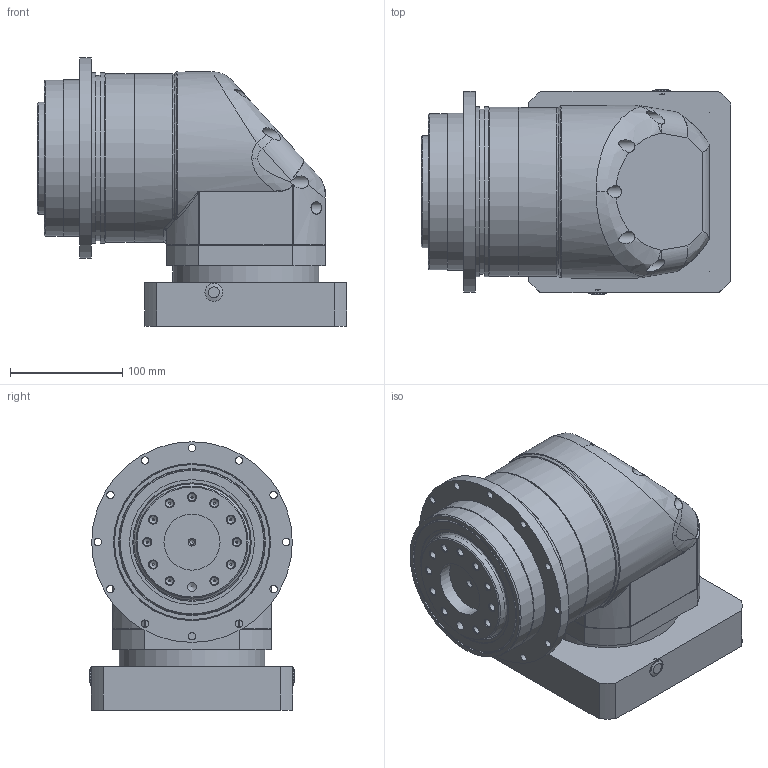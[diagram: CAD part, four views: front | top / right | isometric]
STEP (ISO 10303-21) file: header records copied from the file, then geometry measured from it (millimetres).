
FILE_DESCRIPTION (( 'STEP AP203' ), '1' );
FILE_NAME ('ADR140-L1-28-114.3-200-M12（入力带键槽）.STEP', '2024-05-09T05:51:47', ( '' ), ( '' ), 'SwSTEP 2.0', 'SolidWorks 2018', '' );
FILE_SCHEMA (( 'CONFIG_CONTROL_DESIGN' ));
Length unit declared in the file: millimetre
Products named in the file (1): ADR140-L1-28-114.3-200-M12（入力带键槽）
Bounding box: 276 x 183 x 239.5 mm (x, y, z)
Volume: 4469958.2 mm3; surface area: 489189.1 mm2
Topology: 12 solids, 21 shells, 482 faces, 1130 edges, 709 vertices
Faces by surface type: plane 177, cylinder 148, cone 74, bspline 73, torus 10
Full cylindrical faces by diameter (mm): 4 x1, 6.5 x9, 6.6 x12, 6.8 x19, 8 x1, 10.2 x4, 11 x9, 13 x10, 15 x6, 16 x2, 24 x1, 28 x1, 50 x1, 68 x1, 74 x1, 85 x1, 87 x1, 95 x1, 100 x3, 106 x1, 108 x1, 111.417 x1, 113 x1, 120 x1, 125.156 x1, 130 x4, 139.2 x1, 140 x1, 147.4 x1, 150.5 x2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
Entity records: 16617 total; most frequent: CARTESIAN_POINT 6861, DIRECTION 1933, ORIENTED_EDGE 1780, EDGE_CURVE 890, AXIS2_PLACEMENT_3D 824, EDGE_LOOP 758, VERTEX_POINT 650, FACE_OUTER_BOUND 592
